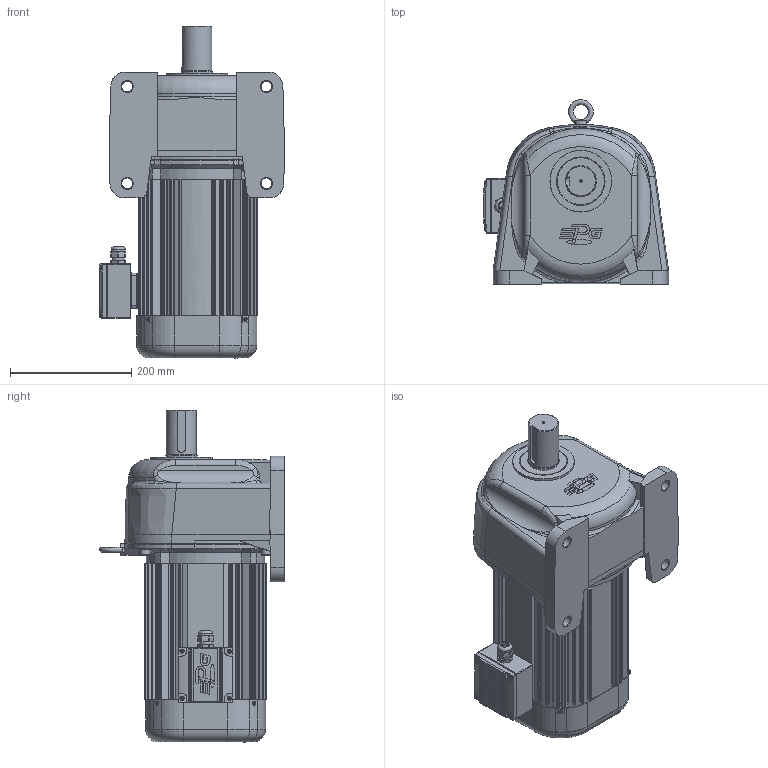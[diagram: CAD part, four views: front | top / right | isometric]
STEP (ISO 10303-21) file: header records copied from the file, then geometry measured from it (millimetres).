
FILE_DESCRIPTION(/* description */ (''),/* implementation_level */ '2;1');
FILE_NAME(/* name */ 'Z:\동력 3D 파일\PAL50-(30~100)-PA(B)220[ ]L_(3D).stp',/* time_stamp */ '2021-07-23T15:21:33+09:00',/* author */ ('jaebok'),/* organization */ (''),/* preprocessor_version */ 'ST-DEVELOPER v18.1',/* originating_system */ 'Autodesk Inventor 2022',/* authorisation */ '');
FILE_SCHEMA (('AUTOMOTIVE_DESIGN { 1 0 10303 214 3 1 1 }'));
Length unit declared in the file: millimetre
Products named in the file (1): 부품1
Bounding box: 306 x 304.87 x 548.5 mm (x, y, z)
Volume: 6414501.3 mm3; surface area: 1305002.8 mm2
Topology: 1 solids, 29 shells, 1753 faces, 4562 edges, 2908 vertices
Faces by surface type: plane 871, cylinder 597, cone 151, bspline 67, torus 63, sphere 4
Full cylindrical faces by diameter (mm): 2.5 x1, 3.25 x1, 3.5 x4, 3.6 x4, 4 x21, 5 x13, 6 x5, 6.647 x5, 7 x8, 8 x1, 8.376 x4, 9 x4, 10 x5, 11 x4, 12 x4, 12.5 x1, 15 x1, 16 x4, 18 x4, 20 x2, 21 x1, 23.6 x1, 25 x2, 31 x1, 35.8 x1, 36 x2, 49.8 x2, 50 x3, 52 x2, 52.8 x1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
Entity records: 60759 total; most frequent: CARTESIAN_POINT 15619, DIRECTION 9345, ORIENTED_EDGE 9080, EDGE_CURVE 4540, AXIS2_PLACEMENT_3D 3508, VERTEX_POINT 2908, LINE 2329, VECTOR 2329
